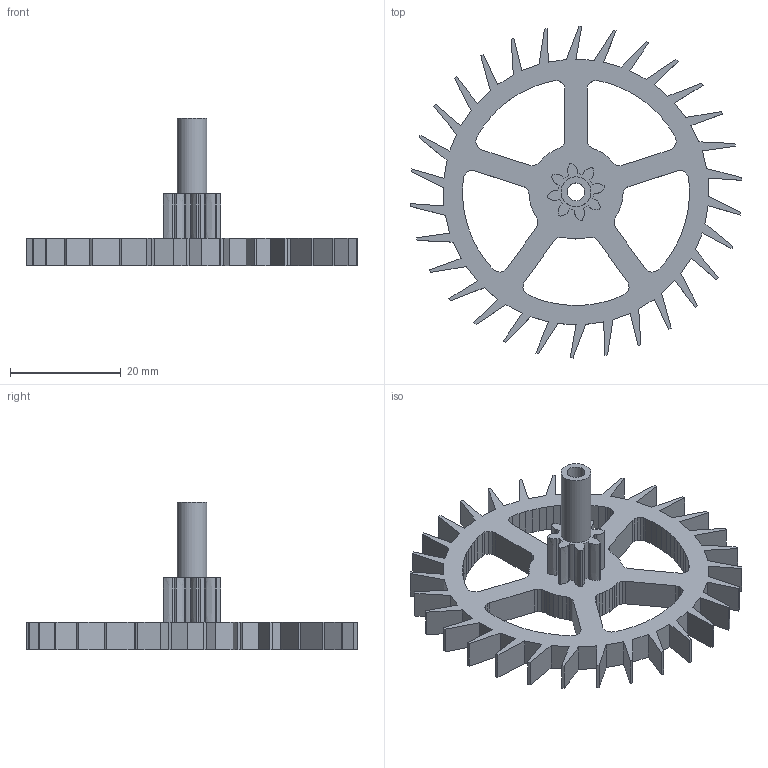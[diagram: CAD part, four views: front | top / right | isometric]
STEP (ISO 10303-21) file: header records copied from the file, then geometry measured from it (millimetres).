
FILE_DESCRIPTION(('Open CASCADE Model'),'2;1');
FILE_NAME('Open CASCADE Shape Model','2026-10-12T22:10:16',('Author'),( 'Open CASCADE'),'Open CASCADE STEP processor 7.9','Open CASCADE 7.9' ,'Unknown');
FILE_SCHEMA(('AUTOMOTIVE_DESIGN { 1 0 10303 214 1 1 1 1 }'));
Length unit declared in the file: millimetre
Products named in the file (1): Open CASCADE STEP translator 7.9 16
Bounding box: 59.85 x 59.99 x 26.7 mm (x, y, z)
Volume: 6377.5 mm3; surface area: 6895.3 mm2
Topology: 1 solids, 1 shells, 355 faces, 1053 edges, 702 vertices
Faces by surface type: plane 321, cylinder 18, extrusion 16
Full cylindrical faces by diameter (mm): 3.2 x1, 5.4 x1
Entity records: 25818 total; most frequent: CARTESIAN_POINT 4777, DIRECTION 3827, VECTOR 3039, LINE 3023, ORIENTED_EDGE 2106, PCURVE 2106, DEFINITIONAL_REPRESENTATION 2106, EDGE_CURVE 1053
